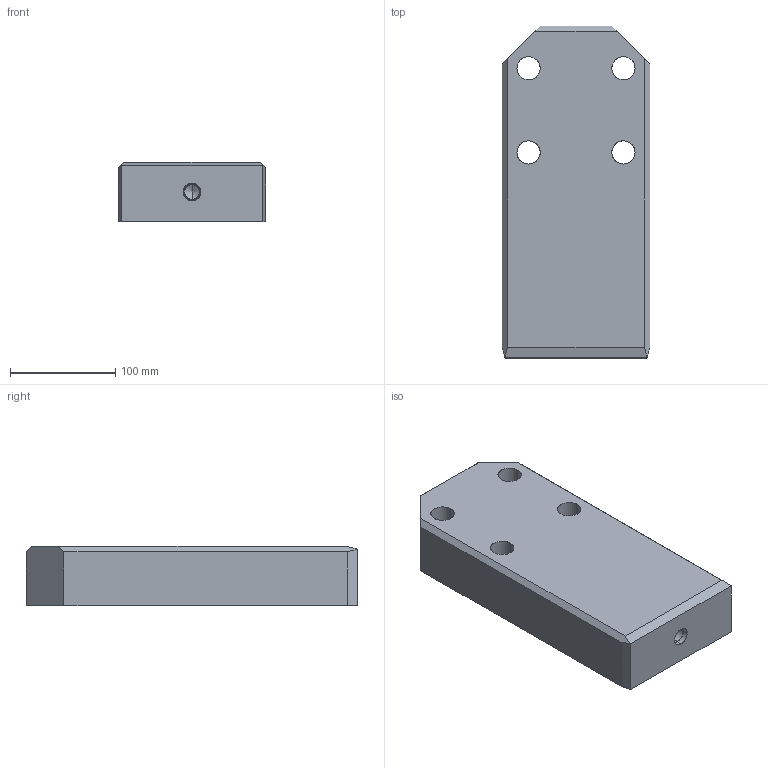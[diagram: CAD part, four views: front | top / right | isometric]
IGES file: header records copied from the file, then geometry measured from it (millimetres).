
Start section: START RECORD GO HERE.
Global section: file name: A927-140X315X56.igs; native system: DASSAULT SYSTEMES CATIA V5 R20 - www.3ds.com; preprocessor: CATIA Version 5 Release 20 ; author: Utente; organization: NB04-ASUS; date: 20200408.203301; units: millimetre
Bounding box: 140 x 315 x 56 mm (x, y, z)
Surface area: 149416.7 mm2 (no closed solid volume)
Topology: 0 solids, 0 shells, 52 faces, 242 edges, 240 vertices
Faces by surface type: revolution 32, extrusion 20
